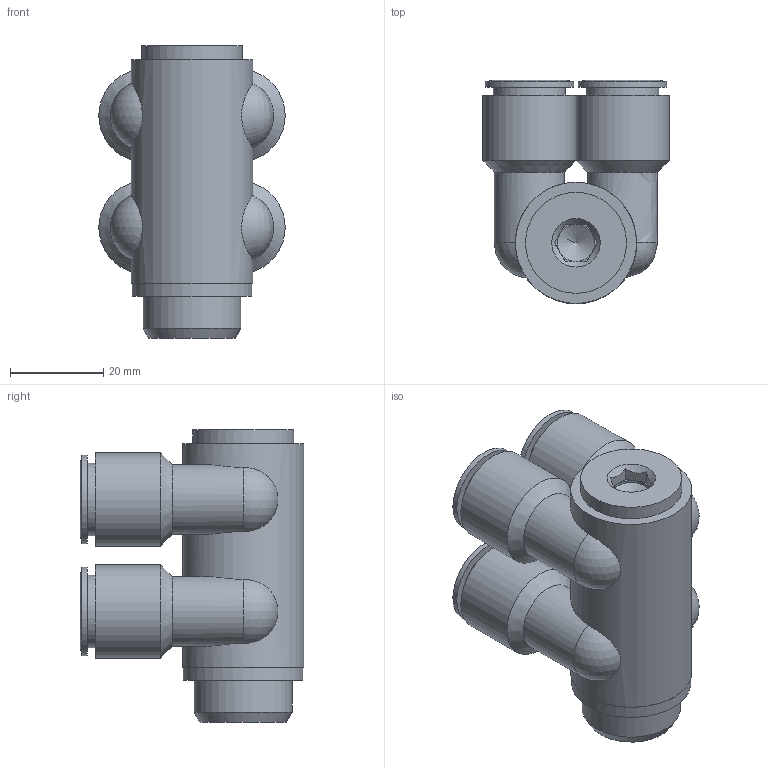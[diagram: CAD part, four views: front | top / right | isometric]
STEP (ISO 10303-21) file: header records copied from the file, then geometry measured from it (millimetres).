
FILE_DESCRIPTION((''),'2;1');
FILE_NAME('C:\Documents and Settings\rivolro1\Documenti\copia di Raccordi\PLASTICA\T33BXXXX\T33B1212.stp','2007-11-03T08:04:15',('Rivolro1'),(''),'Autodesk Inventor 2008','Autodesk Inventor 2008','');
FILE_SCHEMA(('AUTOMOTIVE_DESIGN { 1 0 10303 214 1 1 1 1 }'));
Length unit declared in the file: millimetre
Products named in the file (1): T33B1212
Bounding box: 40 x 47.9 x 62.8 mm (x, y, z)
Volume: 45630.7 mm3; surface area: 19160.6 mm2
Topology: 1 solids, 1 shells, 89 faces, 174 edges, 106 vertices
Faces by surface type: bspline 41, plane 23, cylinder 18, cone 5, sphere 2
Full cylindrical faces by diameter (mm): 10.3 x2, 15 x2, 15.5 x2, 19 x2, 20 x2, 21 x1, 21.667 x1, 25.6 x1, 26 x1
Entity records: 3108 total; most frequent: CARTESIAN_POINT 1561, DIRECTION 270, ORIENTED_EDGE 246, EDGE_LOOP 148, EDGE_CURVE 123, AXIS2_PLACEMENT_3D 122, VERTEX_POINT 91, FACE_OUTER_BOUND 89
